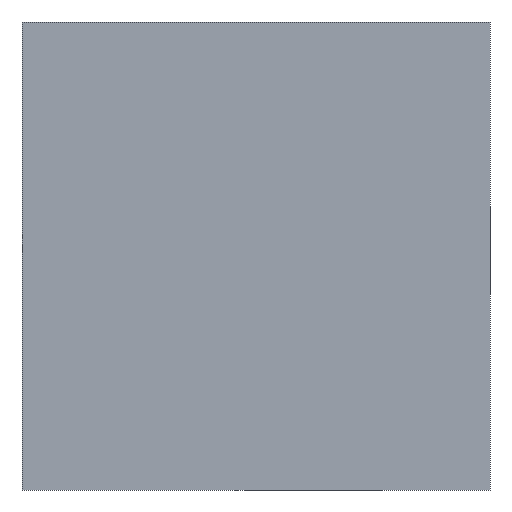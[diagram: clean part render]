
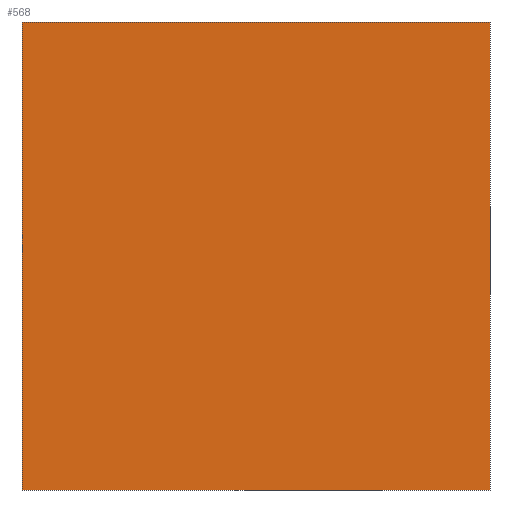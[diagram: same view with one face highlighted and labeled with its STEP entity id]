
A CAD part, front view. The second image highlights one B-rep face of the part: STEP entity #568.
In plain terms, the highlighted planar face has unit normal (0, -1, 0).
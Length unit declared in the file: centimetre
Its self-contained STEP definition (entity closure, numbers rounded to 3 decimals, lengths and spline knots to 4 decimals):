
#46 = CARTESIAN_POINT ( 'NONE',  ( 0., 0., 1000. ) ) ;
#100 = LINE ( 'NONE', #46, #632 ) ;
#111 = DIRECTION ( 'NONE',  ( 0., 0., 1. ) ) ;
#133 = DIRECTION ( 'NONE',  ( 0., 0., -1. ) ) ;
#140 = CARTESIAN_POINT ( 'NONE',  ( 1000., 0., 1000. ) ) ;
#170 = EDGE_CURVE ( 'NONE', #614, #443, #100, .T. ) ;
#195 = DIRECTION ( 'NONE',  ( 0., 0., -1. ) ) ;
#225 = CARTESIAN_POINT ( 'NONE',  ( 1000., 0., 0. ) ) ;
#237 = FACE_OUTER_BOUND ( 'NONE', #601, .T. ) ;
#248 = CARTESIAN_POINT ( 'NONE',  ( 0., 0., 1000. ) ) ;
#252 = AXIS2_PLACEMENT_3D ( 'NONE', #324, #557, #111 ) ;
#303 = CARTESIAN_POINT ( 'NONE',  ( 0., 0., 0. ) ) ;
#307 = ORIENTED_EDGE ( 'NONE', *, *, #482, .F. ) ;
#324 = CARTESIAN_POINT ( 'NONE',  ( 0., 0., 1000. ) ) ;
#340 = CARTESIAN_POINT ( 'NONE',  ( 1000., 0., 1000. ) ) ;
#350 = VECTOR ( 'NONE', #450, 100. ) ;
#358 = VECTOR ( 'NONE', #133, 100. ) ;
#370 = PLANE ( 'NONE',  #252 ) ;
#374 = DIRECTION ( 'NONE',  ( 1., 0., 0. ) ) ;
#388 = CARTESIAN_POINT ( 'NONE',  ( 0., 0., 1000. ) ) ;
#406 = ORIENTED_EDGE ( 'NONE', *, *, #595, .T. ) ;
#427 = VECTOR ( 'NONE', #374, 100. ) ;
#443 = VERTEX_POINT ( 'NONE', #493 ) ;
#450 = DIRECTION ( 'NONE',  ( 1., 0., 0. ) ) ;
#482 = EDGE_CURVE ( 'NONE', #596, #517, #580, .T. ) ;
#493 = CARTESIAN_POINT ( 'NONE',  ( 0., 0., 0. ) ) ;
#510 = EDGE_CURVE ( 'NONE', #614, #596, #642, .T. ) ;
#517 = VERTEX_POINT ( 'NONE', #225 ) ;
#557 = DIRECTION ( 'NONE',  ( 0., 1., 0. ) ) ;
#568 = ADVANCED_FACE ( 'NONE', ( #237 ), #370, .F. ) ;
#580 = LINE ( 'NONE', #140, #358 ) ;
#582 = ORIENTED_EDGE ( 'NONE', *, *, #170, .T. ) ;
#595 = EDGE_CURVE ( 'NONE', #443, #517, #602, .T. ) ;
#596 = VERTEX_POINT ( 'NONE', #340 ) ;
#601 = EDGE_LOOP ( 'NONE', ( #406, #307, #645, #582 ) ) ;
#602 = LINE ( 'NONE', #303, #350 ) ;
#614 = VERTEX_POINT ( 'NONE', #248 ) ;
#632 = VECTOR ( 'NONE', #195, 100. ) ;
#642 = LINE ( 'NONE', #388, #427 ) ;
#645 = ORIENTED_EDGE ( 'NONE', *, *, #510, .F. ) ;
